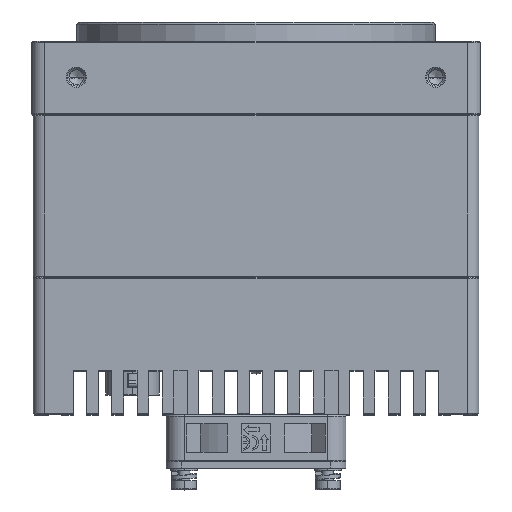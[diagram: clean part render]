
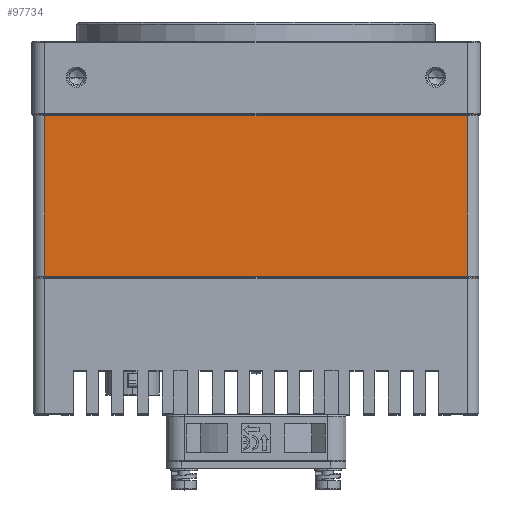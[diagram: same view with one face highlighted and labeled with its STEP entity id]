
A CAD part, top view. The second image highlights one B-rep face of the part: STEP entity #97734.
In plain terms, the highlighted planar face has unit normal (0, 0, 1).
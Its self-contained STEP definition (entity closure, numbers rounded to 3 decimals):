
#4640=DIRECTION('',(-1.,0.,0.));
#4641=VECTOR('',#4640,94.);
#4642=CARTESIAN_POINT('',(47.,3.6,49.6));
#4643=LINE('',#4642,#4641);
#5170=DIRECTION('',(0.,-1.,0.));
#5171=VECTOR('',#5170,35.8);
#5172=CARTESIAN_POINT('',(47.,3.6,49.6));
#5173=LINE('',#5172,#5171);
#5177=DIRECTION('',(-1.,0.,0.));
#5178=VECTOR('',#5177,94.);
#5179=CARTESIAN_POINT('',(47.,-32.2,49.6));
#5180=LINE('',#5179,#5178);
#5184=DIRECTION('',(0.,1.,0.));
#5185=VECTOR('',#5184,35.8);
#5186=CARTESIAN_POINT('',(-47.,-32.2,
49.6));
#5187=LINE('',#5186,#5185);
#88628=CARTESIAN_POINT('',(-47.,3.6,49.6));
#88629=VERTEX_POINT('',#88628);
#88630=CARTESIAN_POINT('',(47.,3.6,49.6));
#88631=VERTEX_POINT('',#88630);
#88638=CARTESIAN_POINT('',(-47.,-32.2,49.6));
#88639=VERTEX_POINT('',#88638);
#88640=CARTESIAN_POINT('',(47.,-32.2,
49.6));
#88641=VERTEX_POINT('',#88640);
#97721=CARTESIAN_POINT('',(47.,4.23,49.6));
#97722=DIRECTION('',(0.,0.,-1.));
#97723=DIRECTION('',(-1.,0.,0.));
#97724=AXIS2_PLACEMENT_3D('',#97721,#97722,#97723);
#97725=PLANE('',#97724);
#97726=ORIENTED_EDGE('',*,*,#97435,.F.);
#97728=ORIENTED_EDGE('',*,*,#97727,.T.);
#97730=ORIENTED_EDGE('',*,*,#97729,.T.);
#97731=ORIENTED_EDGE('',*,*,#97713,.T.);
#97732=EDGE_LOOP('',(#97726,#97728,#97730,#97731));
#97733=FACE_OUTER_BOUND('',#97732,.F.);
#97734=ADVANCED_FACE('',(#97733),#97725,.F.);
#97435=EDGE_CURVE('',#88631,#88629,#4643,.T.);
#97713=EDGE_CURVE('',#88639,#88629,#5187,.T.);
#97727=EDGE_CURVE('',#88631,#88641,#5173,.T.);
#97729=EDGE_CURVE('',#88641,#88639,#5180,.T.);
